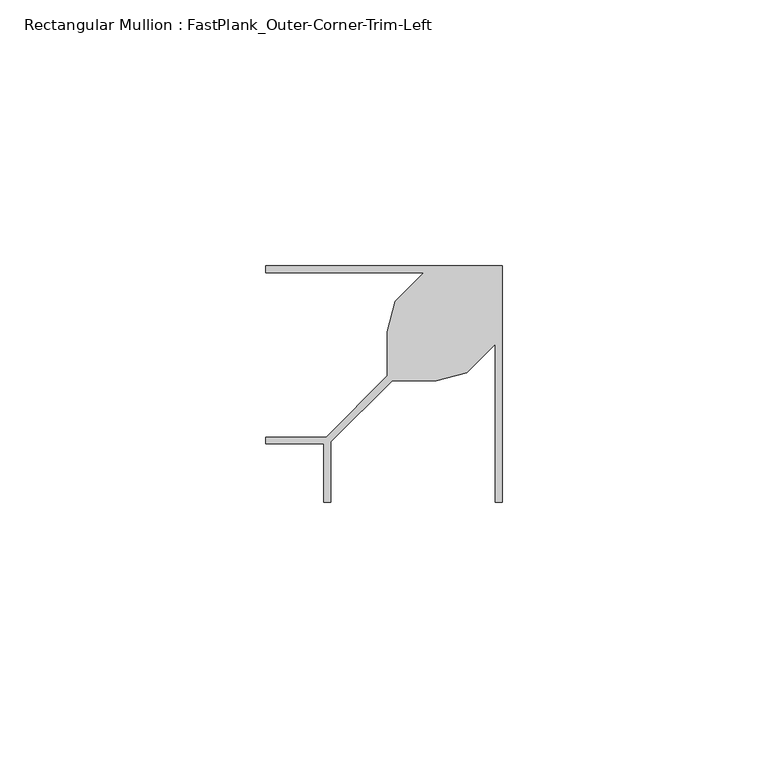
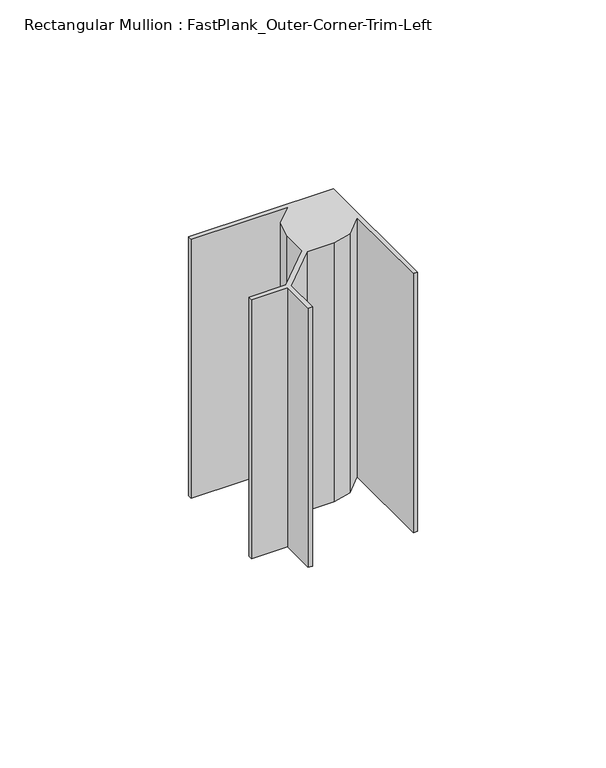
"""IFC4 building model written with IfcOpenShell, lengths in millimetres: member geometry, Rectangular Mullion : FastPlank_Outer-Corner-Trim-Left."""

from ifc_helpers import new_model, si_unit, frame, origin, place, context, project, spatial, polyline, outline, extrude, source, transform, mapped, element, save


def rectangular_mullion_fastplank_outer_corner_trim_left_5a765686(model_context):
    return source(origin(), model_context, "Body", "SweptSolid", [
        extrude(outline(polyline([(0.0, -22.7926044), (-1.2999974, -22.7926044), (-1.2999974, 6.9388362), (-6.6744694, 1.5643642), (-12.417962, 0.0254), (-20.7035048, 0.0254), (-32.1999356, -11.4710308), (-32.1999356, -22.7926044), (-33.499933, -22.7926044), (-33.499933, -11.8517912), (-44.4407461, -11.8517912), (-44.4407461, -10.5517938), (-33.1191726, -10.5517938), (-21.6227418, 0.944637), (-21.6227418, 9.2301797), (-20.0837776, 14.9736723), (-14.7093055, 20.3481444), (-44.4407461, 20.3481444), (-44.4407461, 21.6481418), (0.0, 21.6481418), (0.0, -22.7926044)])), frame((0.0, 0.0, -83.8500189), z_axis=(0.0, 0.0, 1.0), x_axis=(1.0, 0.0, 0.0)), (0.0, 0.0, 1.0), 83.8500189),
    ])


if __name__ == "__main__":
    model = new_model("IFC4")
    model_context = context("Model", 3, world=origin())
    ifc_project = project(units=[si_unit("LENGTHUNIT", "METRE", prefix="MILLI")], contexts=[model_context])
    site = spatial("IfcSite", under=ifc_project)
    building = spatial("IfcBuilding", under=site)
    placement = place(None, origin())
    rectangular_mullion_fastplank_outer_corner_trim_left_shape = rectangular_mullion_fastplank_outer_corner_trim_left_5a765686(model_context)
    element("IfcMember", 1, ObjectType="Rectangular Mullion : FastPlank_Outer-Corner-Trim-Left", at=placement, inside=building, context=model_context, shape_type="MappedRepresentation", body=[
        mapped(rectangular_mullion_fastplank_outer_corner_trim_left_shape, transform((0.0, 0.0, 0.0), x_axis=(1.0, 0.0, 0.0), y_axis=(0.0, 1.0, 0.0), z_axis=(0.0, 0.0, 1.0))),
    ])
    save(model, "model.ifc")
